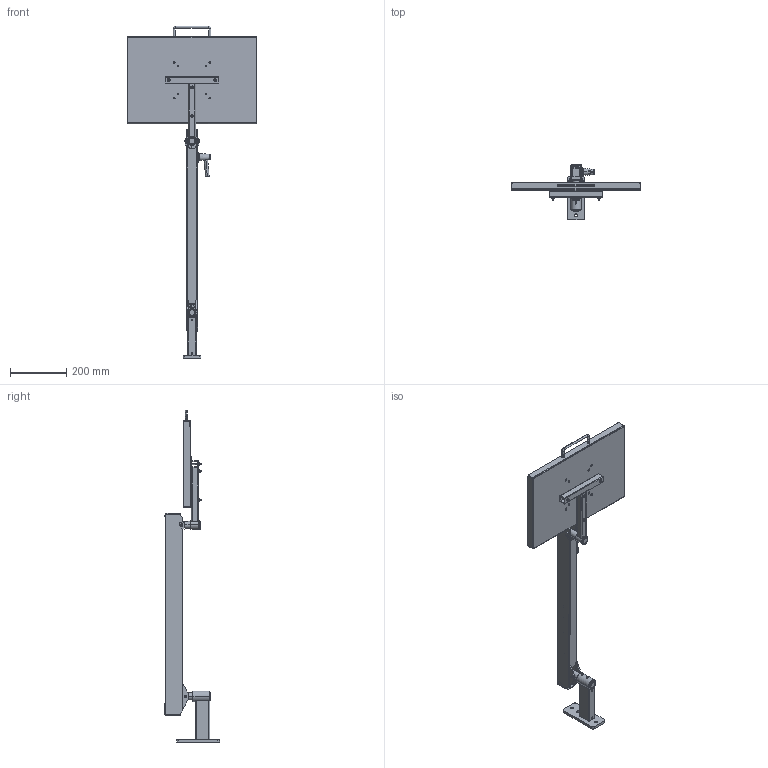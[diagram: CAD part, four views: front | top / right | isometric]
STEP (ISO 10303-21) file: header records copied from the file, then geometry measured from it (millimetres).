
FILE_DESCRIPTION (( 'STEP AP203' ), '1' );
FILE_NAME ('70-0724-00 REV AA, 24in FLEX SYSTEM, TOOL TRAY, WALL MOUNT W EXT - EXTENDED FLAT.STEP', '2025-09-15T22:47:58', ( '' ), ( '' ), 'SwSTEP 2.0', 'SolidWorks 2025', '' );
FILE_SCHEMA (( 'CONFIG_CONTROL_DESIGN' ));
Length unit declared in the file: inch
Products named in the file (52): 004-144-00; 70-0724-00 REV AA, 24in FLEX SYSTEM, TOOL TRAY, WALL MOUNT W EXT - EXTENDED FLAT; 70-0095-00 REV AA, STUD MOUNT, 6in EXT; 71-0972-99 REV AA, END CAP, FLEX; 025-067-00, HANDLE, U SHAPED, 8-32; 005-084-00, BOLT, 1''4-20x2.75; 010-011-00, RETAINING RING, EXT, .250 SHAFT_010-011-00; 006-004-00_006-004-00; 71-0029-RX REV AA, TAB, LOAD; 002-100-00, BHSCS, 8-32x.375_002-100-00; 71-0039-RX REV AA, BRAKE BLOCK_MACHINE; 11-0601-99 REV AA, CONICAL KNOB, BRAKE ASSEMBLY; 016-007-00, OILITE PLUS BEARING, 0.876 id x 1.002 od x 0.75 lg; 11-0027-RX REV AA, PLASTIC DISC, BRAKE ASSEMBLY_MACHINE; 011-033-00; 71-3032-RX REV AA, SPRING ROD, 24in FLEX; 71-0217-RX REV AA, PLATE, NARROW WALL MOUNT_Laser; 71-0038-RX REV AA, PIVOT, KNUCKLE, ELECTROLESS NICKEL; 70-2424-00 REV AA,  FLEX SECTION, 24in, 3-24 LB; 71-2401-BLKX REV AA, FLEX HOUSING, 24in, BLACK; 71-0052-RX REV AA, HOUSING, T AND STRAIGHT BAR CROSS SECTION_MACHINE; 71-0030-RX REV AA, KNUCKLE, LOAD_MACHINE; 002-091-00, FHSCS, 10-32x1.5, BO_002-091-00; 11-0450-00 REV AA, FOAM, YELLOW, 18x12; 71-0028-RX REV AA, TAB, MOUNT_MACHINE; 71-2113-RX REV AA, HOUSING, BEARING, TALL, 1.5OD_MACHINE; 007-036-00, SHSS, 1''4-28, .25L_007-036-00; 70-0401-00 REV AA, 18x12 SUPPORT TRAY ASSEMBLY; 70-0050-00 REV AA, T BAR; 71-0037-RX REV AA, PIVOT, THREADED; 71-0031-RX REV AA, KNUCKLE, MOUNT_MACHINE; 11-0650-00 REV AA, BRAKE HANDLE ASSEMBLY; 71-0013-RX REV AA, HOUSING, BEARING, SHORT_MACHINE; 013-037-00, SPRING, GREEN, 1x12; 004-050-00, WASHER, FIBER, .032 THK, .265ID; 010-012-00, RETAINING RING, EXTERNAL, .875in SHAFT; 71-0070-RX REV AA, AXLE PIN, SHORT; 007-031-00_007-031-00; 006-008-00, NUT, HEX, 10-32 x .125_006-008-00; 71-3033-99 REV AA, BOLT, ADJUSTING, 15.250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
Assembly tree (80 placements, depth 4):
  70-0724-00 REV AA, 24in FLEX SYSTEM, TOOL TRAY, WALL MOUNT W EXT - EXTENDED FLAT
    70-0095-00 REV AA, STUD MOUNT, 6in EXT
      71-0217-RX REV AA, PLATE, NARROW WALL MOUNT_Laser
      71-0091-RX REV AA, HOUSING, WALL MOUNT, 6in EXTENSION
      71-2113-RX REV AA, HOUSING, BEARING, TALL, 1.5OD_MACHINE
      016-007-00, OILITE PLUS BEARING, 0.876 id x 1.002 od x 0.75 lg
      016-008-00, OILITE PLUS BEARING, 0.876 id x 1.002 od x 1.25 lg
      007-036-00, SHSS, 1''4-28, .25L_007-036-00
    70-2424-00 REV AA,  FLEX SECTION, 24in, 3-24 LB
      71-0031-RX REV AA, KNUCKLE, MOUNT_MACHINE
      71-1051-RX REV AA, SPRING BLOCK
      71-3032-RX REV AA, SPRING ROD, 24in FLEX
      71-0030-RX REV AA, KNUCKLE, LOAD_MACHINE
      71-0038-RX REV AA, PIVOT, KNUCKLE, ELECTROLESS NICKEL
      71-0037-RX REV AA, PIVOT, THREADED
      71-0039-RX REV AA, BRAKE BLOCK_MACHINE
      71-3033-99 REV AA, BOLT, ADJUSTING, 15.250
      71-2401-BLKX REV AA, FLEX HOUSING, 24in, BLACK
        71-2400-RX REV AA, HOUSING, 24in FLEX
        71-0029-RX REV AA, TAB, LOAD  x2
        71-0028-RX REV AA, TAB, MOUNT_MACHINE  x2
      71-0070-RX REV AA, AXLE PIN, SHORT
      71-0071-RX REV AA, AXLE PIN, LONG
      010-012-00, RETAINING RING, EXTERNAL, .875in SHAFT  x2
      71-0972-99 REV AA, END CAP, FLEX  x2
      11-0027-RX REV AA, PLASTIC DISC, BRAKE ASSEMBLY_MACHINE
      11-0650-00 REV AA, BRAKE HANDLE ASSEMBLY
        11-0601-99 REV AA, CONICAL KNOB, BRAKE ASSEMBLY
        11-0602-RX REV AA, HANDLE, BRAKE ASSEMBLY
        11-0027-RX REV AA, PLASTIC DISC, BRAKE ASSEMBLY_MACHINE
        005-084-00, BOLT, 1''4-20x2.75
      010-011-00, RETAINING RING, EXT, .250 SHAFT_010-011-00  x4
      016-070-00, BEARING, PLASTIC, .5ID x .625 OD x .75  x2
      004-050-00, WASHER, FIBER, .032 THK, .265ID  x8
      011-033-00
      011-020-00 REV AA, PIN, KNURLED, 1.0LG x .25OD  x2
      004-144-00  x3
      006-059-00
      013-037-00, SPRING, GREEN, 1x12
      006-004-00_006-004-00  x2
      002-041-00_002-041-00  x2
    70-0401-00 REV AA, 18x12 SUPPORT TRAY ASSEMBLY
      11-0401-00 REV AA, 18x12 TOOL TRAY, BLACK
      70-0050-00 REV AA, T BAR
        71-0047-RX REV AA, HOUSING, T AND STRAIGHT BAR_MACHINE
        71-0013-RX REV AA, HOUSING, BEARING, SHORT_MACHINE
        71-0052-RX REV AA, HOUSING, T AND STRAIGHT BAR CROSS SECTION_MACHINE
        016-008-00, OILITE PLUS BEARING, 0.876 id x 1.002 od x 1.25 lg
        007-031-00_007-031-00
      002-091-00, FHSCS, 10-32x1.5, BO_002-091-00  x4
      006-008-00, NUT, HEX, 10-32 x .125_006-008-00  x4
      025-067-00, HANDLE, U SHAPED, 8-32
      002-100-00, BHSCS, 8-32x.375_002-100-00  x2
      11-0450-00 REV AA, FOAM, YELLOW, 18x12
Bounding box: 461.77 x 195.74 x 1180.4 mm (x, y, z)
Volume: 1826025.9 mm3; surface area: 1278283.6 mm2
Topology: 76 solids, 76 shells, 2042 faces, 4954 edges, 3063 vertices
Faces by surface type: cylinder 907, plane 561, cone 423, torus 89, bspline 52, sphere 10
Entity records: 82292 total; most frequent: CARTESIAN_POINT 46741, ORIENTED_EDGE 6134, DIRECTION 6077, EDGE_CURVE 3067, AXIS2_PLACEMENT_3D 2354, VERTEX_POINT 1907, EDGE_LOOP 1422, VECTOR 1369
